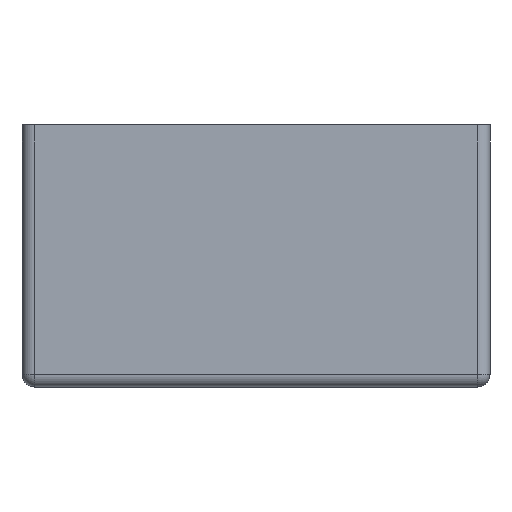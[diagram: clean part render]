
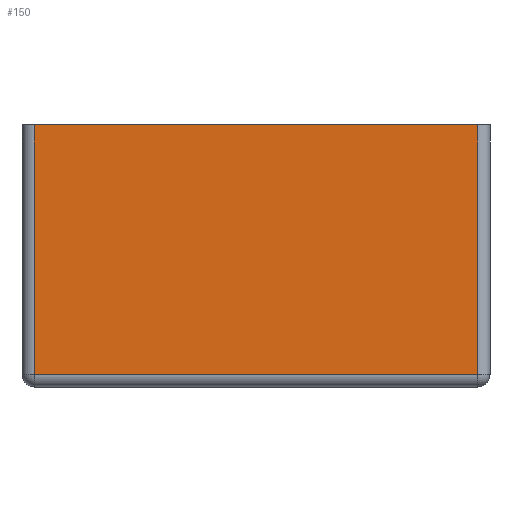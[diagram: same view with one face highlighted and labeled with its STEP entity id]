
A CAD part, left-side view. The second image highlights one B-rep face of the part: STEP entity #150.
In plain terms, the highlighted planar face has unit normal (-1, 0, 0).
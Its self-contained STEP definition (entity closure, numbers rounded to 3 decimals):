
#1 = LINE ( 'NONE', #442, #1598 ) ;
#8 = DIRECTION ( 'NONE',  ( 0., -1., 0. ) ) ;
#67 = DIRECTION ( 'NONE',  ( -1., 0., 0. ) ) ;
#136 = VERTEX_POINT ( 'NONE', #833 ) ;
#150 = ADVANCED_FACE ( 'NONE', ( #1001 ), #1247, .T. ) ;
#153 = VECTOR ( 'NONE', #977, 1000. ) ;
#169 = CARTESIAN_POINT ( 'NONE',  ( 80., 35.5, 40. ) ) ;
#171 = EDGE_CURVE ( 'NONE', #685, #1250, #627, .T. ) ;
#205 = CARTESIAN_POINT ( 'NONE',  ( 80., 35.5, 0. ) ) ;
#207 = EDGE_CURVE ( 'NONE', #136, #801, #1309, .T. ) ;
#240 = ORIENTED_EDGE ( 'NONE', *, *, #982, .T. ) ;
#286 = VECTOR ( 'NONE', #991, 1000. ) ;
#343 = ORIENTED_EDGE ( 'NONE', *, *, #207, .T. ) ;
#442 = CARTESIAN_POINT ( 'NONE',  ( 80., 37.5, 40. ) ) ;
#524 = AXIS2_PLACEMENT_3D ( 'NONE', #705, #67, #728 ) ;
#584 = CARTESIAN_POINT ( 'NONE',  ( 80., 35.5, -2. ) ) ;
#627 = LINE ( 'NONE', #584, #286 ) ;
#654 = CARTESIAN_POINT ( 'NONE',  ( 80., 37.5, 0. ) ) ;
#685 = VERTEX_POINT ( 'NONE', #169 ) ;
#694 = VECTOR ( 'NONE', #8, 1000. ) ;
#705 = CARTESIAN_POINT ( 'NONE',  ( 80., 37.5, 115.042 ) ) ;
#728 = DIRECTION ( 'NONE',  ( 0., -1., 0. ) ) ;
#801 = VERTEX_POINT ( 'NONE', #1400 ) ;
#833 = CARTESIAN_POINT ( 'NONE',  ( 80., -35.5, 0. ) ) ;
#977 = DIRECTION ( 'NONE',  ( 0., 0., 1. ) ) ;
#982 = EDGE_CURVE ( 'NONE', #1250, #136, #1006, .T. ) ;
#991 = DIRECTION ( 'NONE',  ( 0., 0., -1. ) ) ;
#1001 = FACE_OUTER_BOUND ( 'NONE', #1439, .T. ) ;
#1006 = LINE ( 'NONE', #654, #694 ) ;
#1088 = EDGE_CURVE ( 'NONE', #801, #685, #1, .T. ) ;
#1224 = CARTESIAN_POINT ( 'NONE',  ( 80., -35.5, 40. ) ) ;
#1247 = PLANE ( 'NONE',  #524 ) ;
#1250 = VERTEX_POINT ( 'NONE', #205 ) ;
#1309 = LINE ( 'NONE', #1224, #153 ) ;
#1313 = ORIENTED_EDGE ( 'NONE', *, *, #171, .T. ) ;
#1356 = DIRECTION ( 'NONE',  ( 0., 1., 0. ) ) ;
#1400 = CARTESIAN_POINT ( 'NONE',  ( 80., -35.5, 40. ) ) ;
#1439 = EDGE_LOOP ( 'NONE', ( #1477, #1313, #240, #343 ) ) ;
#1477 = ORIENTED_EDGE ( 'NONE', *, *, #1088, .T. ) ;
#1598 = VECTOR ( 'NONE', #1356, 1000. ) ;
